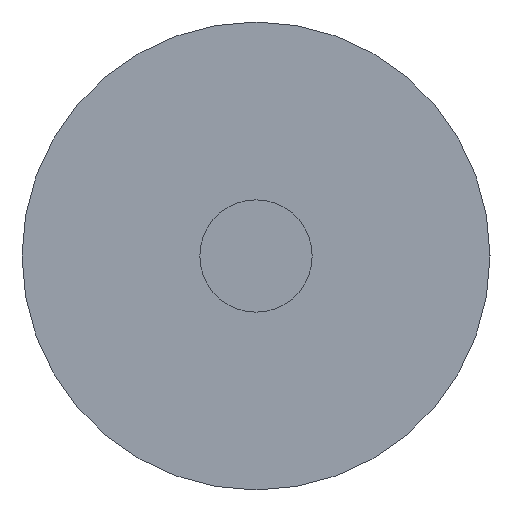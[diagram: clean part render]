
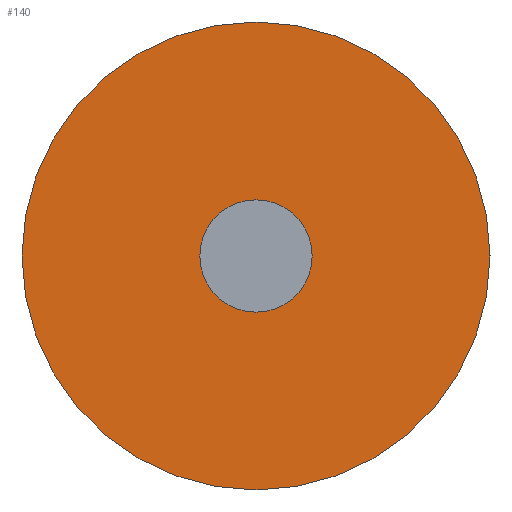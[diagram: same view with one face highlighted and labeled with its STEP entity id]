
A CAD part, left-side view. The second image highlights one B-rep face of the part: STEP entity #140.
In plain terms, the highlighted planar face has unit normal (-1, 0, 0).
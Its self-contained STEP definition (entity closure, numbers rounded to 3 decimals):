
#140=ADVANCED_FACE('',(#152),#146,.F.);
#146=PLANE('',#210);
#152=FACE_OUTER_BOUND('',#164,.T.);
#164=EDGE_LOOP('',(#176));
#176=ORIENTED_EDGE('',*,*,#188,.F.);
#182=VERTEX_POINT('',#264);
#188=EDGE_CURVE('',#182,#182,#194,.T.);
#194=CIRCLE('',#208,1.25);
#208=AXIS2_PLACEMENT_3D('',#263,#237,#238);
#210=AXIS2_PLACEMENT_3D('',#266,#241,#242);
#237=DIRECTION('',(1.,0.,0.));
#238=DIRECTION('',(0.,0.,-1.));
#241=DIRECTION('',(1.,0.,0.));
#242=DIRECTION('',(0.,0.,-1.));
#263=CARTESIAN_POINT('',(27.,0.,0.));
#264=CARTESIAN_POINT('',(27.,0.,-1.25));
#266=CARTESIAN_POINT('',(27.,0.,0.));
